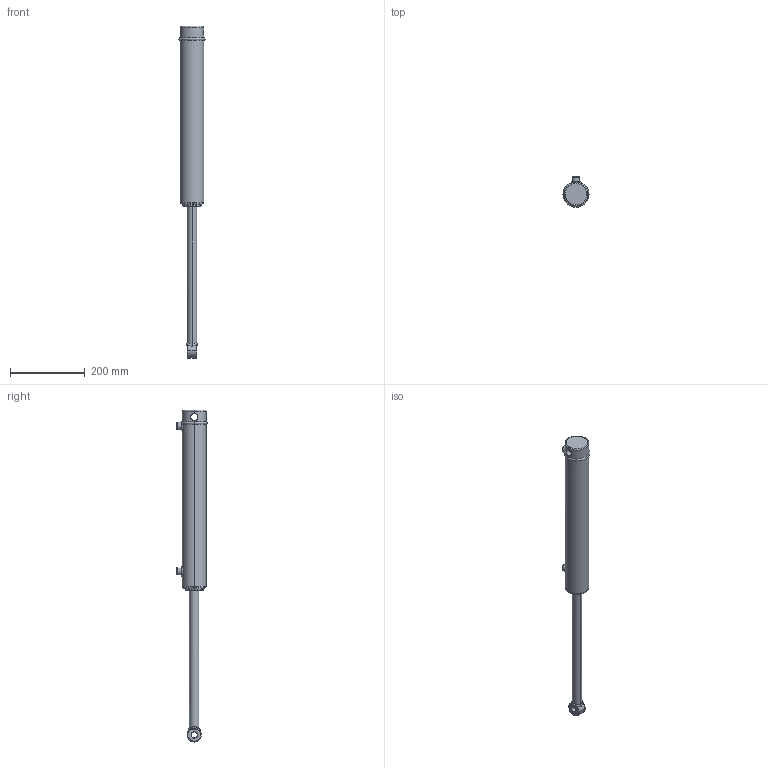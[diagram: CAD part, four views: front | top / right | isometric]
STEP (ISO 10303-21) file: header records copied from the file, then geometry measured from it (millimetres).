
FILE_DESCRIPTION (( 'STEP AP203' ), '1' );
FILE_NAME ('SB-C200100X355 (14) extended.STEP', '2014-12-01T23:56:15', ( '' ), ( '' ), 'SwSTEP 2.0', 'SolidWorks 2014', '' );
FILE_SCHEMA (( 'CONFIG_CONTROL_DESIGN' ));
Length unit declared in the file: millimetre
Products named in the file (5): SB-C2 14 SPARE; SB-C200100X355 (14) extended; SB-C200100X355 (14) BODY; 2 inch circlip
Assembly tree (4 placements, depth 3):
  SB-C200100X355 (14) extended
    SB-C200100X355 (14) BODY
    2 inch circlip
    SB-C2 14 SPARE
      SB-C2 14 SPARE
Bounding box: 69.5 x 81.5 x 887 mm (x, y, z)
Volume: 1629182 mm3; surface area: 173471 mm2
Topology: 3 solids, 3 shells, 130 faces, 324 edges, 203 vertices
Faces by surface type: cylinder 51, bspline 25, plane 25, torus 21, cone 8
Entity records: 9343 total; most frequent: CARTESIAN_POINT 5899, ORIENTED_EDGE 640, DIRECTION 595, EDGE_CURVE 320, AXIS2_PLACEMENT_3D 263, VERTEX_POINT 203, CIRCLE 150, EDGE_LOOP 149
